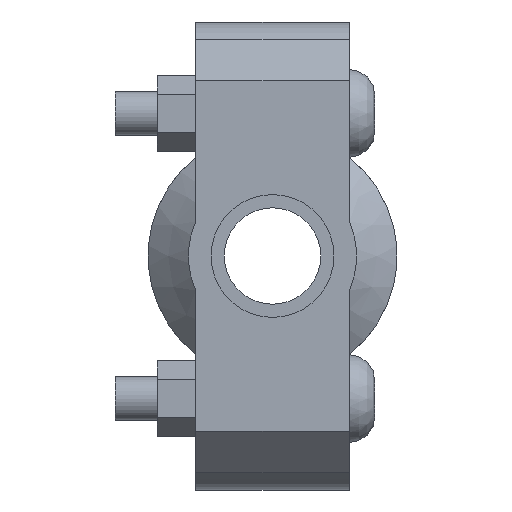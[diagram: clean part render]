
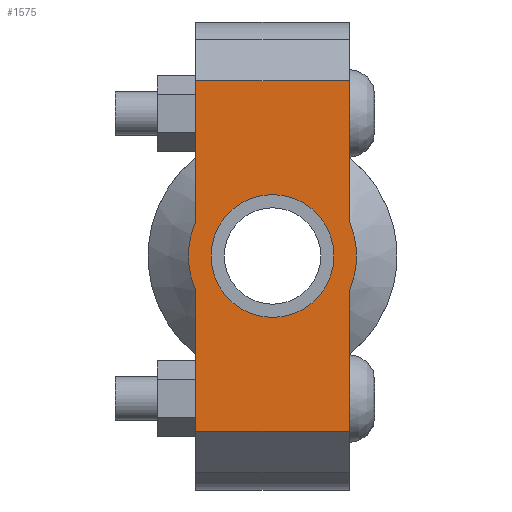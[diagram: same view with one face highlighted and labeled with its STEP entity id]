
A CAD part, left-side view. The second image highlights one B-rep face of the part: STEP entity #1575.
In plain terms, the highlighted planar face has unit normal (-1, 0, 0) as drawn and (0, 0, 1) by its records, which use the part's own axes.
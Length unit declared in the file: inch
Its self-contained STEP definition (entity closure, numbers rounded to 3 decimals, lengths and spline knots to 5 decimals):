
#186=LINE('',#2707,#281);
#201=LINE('',#2766,#296);
#209=LINE('',#2796,#304);
#211=LINE('',#2799,#306);
#212=LINE('',#2804,#307);
#213=LINE('',#2805,#308);
#281=VECTOR('',#2181,0.3937);
#296=VECTOR('',#2216,0.3937);
#304=VECTOR('',#2236,0.3937);
#306=VECTOR('',#2240,0.3937);
#307=VECTOR('',#2245,0.3937);
#308=VECTOR('',#2246,0.3937);
#368=FACE_BOUND('',#527,.T.);
#428=FACE_OUTER_BOUND('',#526,.T.);
#526=EDGE_LOOP('',(#1270,#1271,#1272,#1273,#1274,#1275,#1276,#1277));
#527=EDGE_LOOP('',(#1278));
#632=CIRCLE('',#1838,0.719);
#633=CIRCLE('',#1839,0.719);
#634=CIRCLE('',#1840,0.525);
#741=VERTEX_POINT('',#2704);
#742=VERTEX_POINT('',#2706);
#763=VERTEX_POINT('',#2761);
#764=VERTEX_POINT('',#2765);
#773=VERTEX_POINT('',#2791);
#774=VERTEX_POINT('',#2795);
#775=VERTEX_POINT('',#2801);
#776=VERTEX_POINT('',#2803);
#777=VERTEX_POINT('',#2807);
#911=EDGE_CURVE('',#742,#741,#186,.T.);
#936=EDGE_CURVE('',#764,#763,#201,.T.);
#949=EDGE_CURVE('',#774,#773,#209,.T.);
#951=EDGE_CURVE('',#774,#741,#211,.T.);
#952=EDGE_CURVE('',#773,#775,#632,.T.);
#953=EDGE_CURVE('',#775,#776,#212,.T.);
#954=EDGE_CURVE('',#764,#776,#213,.T.);
#955=EDGE_CURVE('',#763,#742,#633,.T.);
#956=EDGE_CURVE('',#777,#777,#634,.T.);
#1270=ORIENTED_EDGE('',*,*,#951,.F.);
#1271=ORIENTED_EDGE('',*,*,#949,.T.);
#1272=ORIENTED_EDGE('',*,*,#952,.T.);
#1273=ORIENTED_EDGE('',*,*,#953,.T.);
#1274=ORIENTED_EDGE('',*,*,#954,.F.);
#1275=ORIENTED_EDGE('',*,*,#936,.T.);
#1276=ORIENTED_EDGE('',*,*,#955,.T.);
#1277=ORIENTED_EDGE('',*,*,#911,.T.);
#1278=ORIENTED_EDGE('',*,*,#956,.T.);
#1427=PLANE('',#1837);
#1575=ADVANCED_FACE('',(#428,#368),#1427,.T.);
#1837=AXIS2_PLACEMENT_3D('',#2800,#2241,#2242);
#1838=AXIS2_PLACEMENT_3D('',#2802,#2243,#2244);
#1839=AXIS2_PLACEMENT_3D('',#2806,#2247,#2248);
#1840=AXIS2_PLACEMENT_3D('',#2808,#2249,#2250);
#2181=DIRECTION('',(1.,0.,0.));
#2216=DIRECTION('',(1.,0.,0.));
#2236=DIRECTION('',(-1.,0.,0.));
#2240=DIRECTION('',(0.,-1.,0.));
#2241=DIRECTION('center_axis',(0.,0.,1.));
#2242=DIRECTION('ref_axis',(-1.,0.,0.));
#2243=DIRECTION('center_axis',(0.,0.,1.));
#2244=DIRECTION('ref_axis',(1.,0.,0.));
#2245=DIRECTION('',(-1.,0.,0.));
#2246=DIRECTION('',(0.,1.,0.));
#2247=DIRECTION('center_axis',(0.,0.,1.));
#2248=DIRECTION('ref_axis',(1.,0.,0.));
#2249=DIRECTION('center_axis',(0.,0.,-1.));
#2250=DIRECTION('ref_axis',(1.,0.,0.));
#2704=CARTESIAN_POINT('',(1.5,-0.656,0.875));
#2706=CARTESIAN_POINT('',(0.29432,-0.656,0.875));
#2707=CARTESIAN_POINT('',(-2.,-0.656,0.875));
#2761=CARTESIAN_POINT('',(-0.29432,-0.656,0.875));
#2765=CARTESIAN_POINT('',(-1.5,-0.656,0.875));
#2766=CARTESIAN_POINT('',(-2.,-0.656,0.875));
#2791=CARTESIAN_POINT('',(0.29432,0.656,0.875));
#2795=CARTESIAN_POINT('',(1.5,0.656,0.875));
#2796=CARTESIAN_POINT('',(2.,0.656,0.875));
#2799=CARTESIAN_POINT('',(1.5,-0.328,0.875));
#2800=CARTESIAN_POINT('Origin',(0.,0.,
0.875));
#2801=CARTESIAN_POINT('',(-0.29432,0.656,0.875));
#2802=CARTESIAN_POINT('Origin',(0.,0.,0.875));
#2803=CARTESIAN_POINT('',(-1.5,0.656,0.875));
#2804=CARTESIAN_POINT('',(2.,0.656,0.875));
#2805=CARTESIAN_POINT('',(-1.5,0.328,0.875));
#2806=CARTESIAN_POINT('Origin',(0.,0.,0.875));
#2807=CARTESIAN_POINT('',(-0.525,0.,0.875));
#2808=CARTESIAN_POINT('Origin',(0.,0.,0.875));
